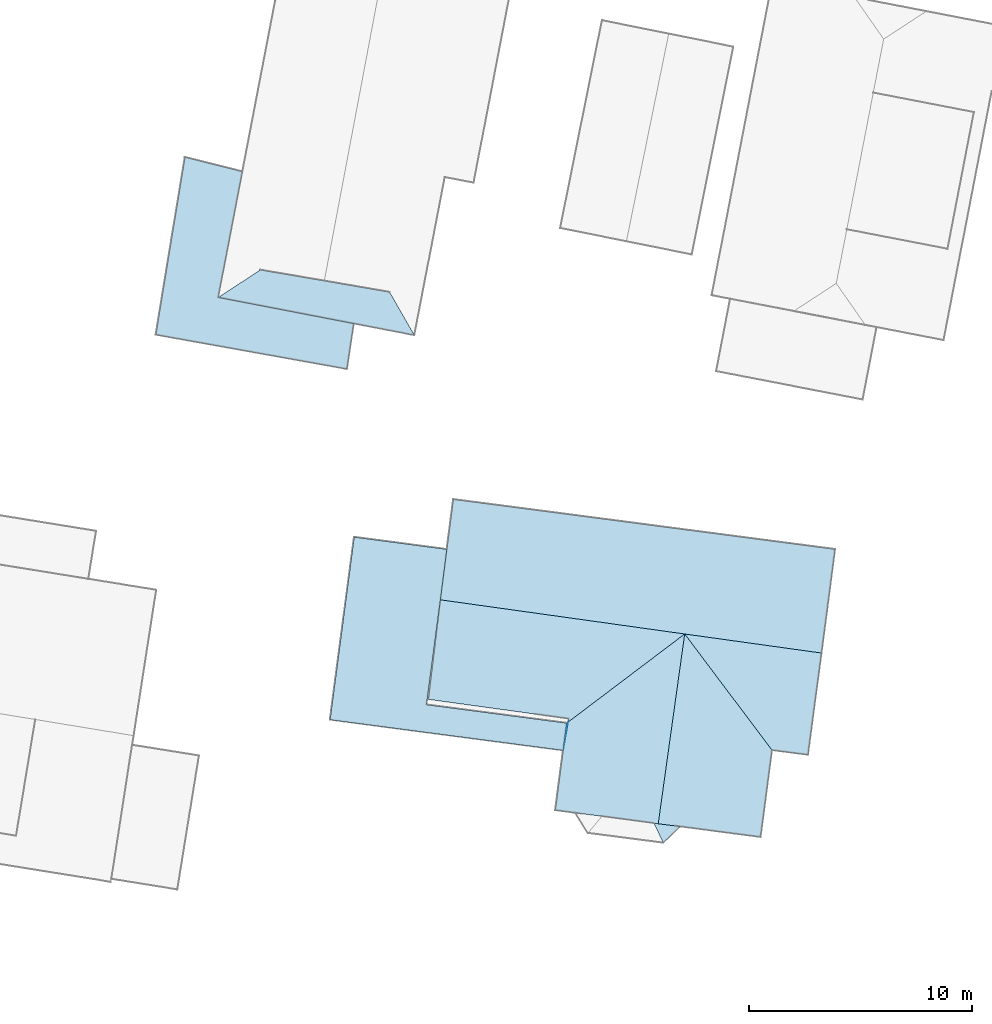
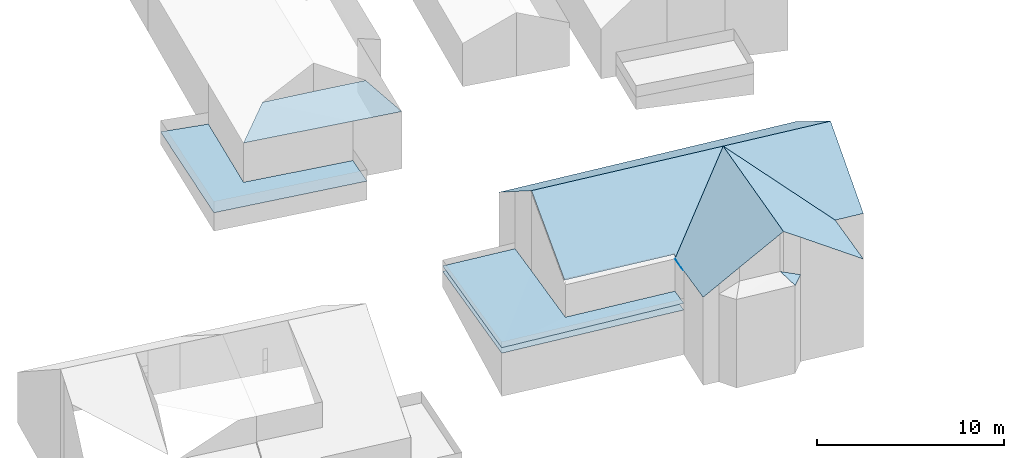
# Not in any storey, part 55 of 57: 22 roofs.
"""IFC4 building model written with IfcOpenShell, lengths in metres."""

from ifc_helpers import new_model, entity, si_unit, converted_unit, frame, origin, place, context, subcontext, project, spatial, face_set, surface_model, element, save


model = new_model("IFC4")

# Units and contexts
model_context = context("Model", 3, precision=1e-05, world=origin())
body_context = subcontext(model_context, "Body", "Model", "MODEL_VIEW")
ifc_project = project(units=[converted_unit("PLANEANGLEUNIT", "DEGREE", entity("IfcRatioMeasure", 0.0174532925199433), si_unit("PLANEANGLEUNIT", "RADIAN"), dimensions=[0, 0, 0, 0, 0, 0, 0]), si_unit("AREAUNIT", "SQUARE_METRE"), si_unit("LENGTHUNIT", "METRE")], contexts=[model_context])

# Site, building
site_placement = place(None, origin())
site = spatial("IfcSite", under=ifc_project, at=site_placement, Name="_site")
building_1_placement = place(site_placement, origin())
building_1 = spatial("IfcBuilding", under=site, at=building_1_placement, Name="_building")

# Roofs
roof_1_placement = place(building_1_placement, origin())
element("IfcRoof", 1, at=roof_1_placement, inside=building_1, Name="Roof", PredefinedType="NOTDEFINED", context=body_context, shape_type="SurfaceModel", body=[
    surface_model("IfcFaceBasedSurfaceModel", [(233.55, 89.753, 110.25), (233.709, 90.98, 110.24), (227.414, 91.808, 110.24), (228.039, 96.515, 110.193), (228.328, 98.781, 110.17), (224.168, 99.329, 110.17), (223.086, 91.129, 110.17)], [face_set([[[0, 1, 2, 3, 4, 5, 6]]])]),
])
roof_2_placement = place(building_1_placement, origin())
element("IfcRoof", 2, at=roof_2_placement, inside=building_1, Name="Roof", PredefinedType="NOTDEFINED", context=body_context, shape_type="SurfaceModel", body=[
    surface_model("IfcFaceBasedSurfaceModel", [(233.709, 90.98, 112.35), (233.768, 91.024, 112.384), (233.55, 89.753, 112.36)], [face_set([[[0, 1, 2]]])]),
])
roof_3_placement = place(building_1_placement, origin())
element("IfcRoof", 3, at=roof_3_placement, inside=building_1, Name="Roof", PredefinedType="NOTDEFINED", context=body_context, shape_type="SurfaceModel", body=[
    surface_model("IfcFaceBasedSurfaceModel", [(233.55, 89.753, 110.25), (233.709, 90.98, 110.24), (227.414, 91.808, 110.24), (228.039, 96.515, 110.193), (228.328, 98.781, 110.17), (224.168, 99.329, 110.17), (223.086, 91.129, 110.17)], [face_set([[[0, 1, 2, 3, 4, 5, 6]]])]),
])
roof_4_placement = place(building_1_placement, origin())
element("IfcRoof", 4, at=roof_4_placement, inside=building_1, Name="Roof", PredefinedType="NOTDEFINED", context=body_context, shape_type="SurfaceModel", body=[
    surface_model("IfcFaceBasedSurfaceModel", [(233.709, 90.98, 112.35), (233.768, 91.024, 112.384), (233.55, 89.753, 112.36)], [face_set([[[0, 1, 2]]])]),
])
for number, where, name in (
    (5, (0.0, 0.0, 0.0), "Roof"),
    (6, (0.0, 0.0, 0.0), "Roof"),
):
    element("IfcRoof", number, at=place(building_1_placement, frame(where)), inside=building_1, Name=name, PredefinedType="NOTDEFINED", context=body_context, shape_type="SurfaceModel", body=[
        surface_model("IfcFaceBasedSurfaceModel", [(233.55, 89.753, 109.81), (233.709, 90.98, 109.81), (227.414, 91.808, 109.81), (228.039, 96.515, 109.81), (228.328, 98.781, 109.81), (224.168, 99.329, 109.81), (223.086, 91.129, 109.81)], [face_set([[[0, 1, 2, 3, 4, 5, 6]]])]),
    ])

# Building
building_2_placement = place(site_placement, origin())
building_2 = spatial("IfcBuilding", under=site, at=building_2_placement, Name="_building")

# Roofs
for number, where, name in (
    (7, (0.0, 0.0, 0.0), "Roof"),
    (8, (0.0, 0.0, 0.0), "Roof"),
):
    element("IfcRoof", number, at=place(building_2_placement, frame(where)), inside=building_2, Name=name, PredefinedType="NOTDEFINED", context=body_context, shape_type="SurfaceModel", body=[
        surface_model("IfcFaceBasedSurfaceModel", [(218.066, 110.088, 113.82), (224.153, 108.915, 113.82), (226.872, 108.391, 113.82), (225.757, 110.328, 115.07), (222.827, 110.835, 115.07), (219.956, 111.325, 115.07)], [face_set([[[0, 1, 2, 3, 4, 5]]])]),
    ])
for number, where, name in (
    (9, (0.0, 0.0, 0.0), "Roof"),
    (10, (0.0, 0.0, 0.0), "Roof"),
):
    element("IfcRoof", number, at=place(building_2_placement, frame(where)), inside=building_2, Name=name, PredefinedType="NOTDEFINED", context=body_context, shape_type="SurfaceModel", body=[
        surface_model("IfcFaceBasedSurfaceModel", [(224.153, 108.915, 111.25), (218.066, 110.088, 111.25), (219.152, 115.735, 111.25), (216.573, 116.387, 111.25), (215.265, 108.413, 111.25), (223.845, 106.871, 111.25)], [face_set([[[0, 1, 2, 3, 4, 5]]])]),
    ])

# Building
building_3_placement = place(site_placement, origin())
building_3 = spatial("IfcBuilding", under=site, at=building_3_placement, Name="_building")

# Roofs
roof_5_placement = place(building_3_placement, origin())
element("IfcRoof", 11, at=roof_5_placement, inside=building_3, Name="Roof", PredefinedType="NOTDEFINED", context=body_context, shape_type="SurfaceModel", body=[
    surface_model("IfcFaceBasedSurfaceModel", [(239.005, 94.981, 115.44), (228.039, 96.515, 115.44), (227.5, 92.046, 112.478), (233.794, 91.179, 112.487), (233.768, 91.024, 112.384)], [face_set([[[0, 1, 2, 3, 4]]])]),
])
roof_6_placement = place(building_3_placement, origin())
element("IfcRoof", 12, at=roof_6_placement, inside=building_3, Name="Roof", PredefinedType="NOTDEFINED", context=body_context, shape_type="SurfaceModel", body=[
    surface_model("IfcFaceBasedSurfaceModel", [(242.926, 89.764, 112.39), (244.542, 89.556, 112.39), (245.15, 94.125, 115.44), (239.005, 94.981, 115.44)], [face_set([[[0, 1, 2, 3]]])]),
])
roof_7_placement = place(building_3_placement, origin())
element("IfcRoof", 13, at=roof_7_placement, inside=building_3, Name="Roof", PredefinedType="NOTDEFINED", context=body_context, shape_type="SurfaceModel", body=[
    surface_model("IfcFaceBasedSurfaceModel", [(239.005, 94.981, 115.44), (237.816, 86.461, 115.44), (238.803, 86.338, 114.79), (242.415, 85.864, 112.39), (242.926, 89.764, 112.39)], [face_set([[[0, 1, 2, 3, 4]]])]),
])
roof_8_placement = place(building_3_placement, origin())
element("IfcRoof", 14, at=roof_8_placement, inside=building_3, Name="Roof", PredefinedType="NOTDEFINED", context=body_context, shape_type="SurfaceModel", body=[
    surface_model("IfcFaceBasedSurfaceModel", [(245.15, 94.125, 115.44), (245.759, 98.783, 112.39), (228.621, 101.025, 112.39), (228.328, 98.781, 113.91), (228.039, 96.515, 115.44), (239.005, 94.981, 115.44)], [face_set([[[0, 1, 2, 3, 4, 5]]])]),
])
roof_9_placement = place(building_3_placement, origin())
element("IfcRoof", 15, at=roof_9_placement, inside=building_3, Name="Roof", PredefinedType="NOTDEFINED", context=body_context, shape_type="SurfaceModel", body=[
    surface_model("IfcFaceBasedSurfaceModel", [(238.046, 85.605, 112.35), (238.803, 86.338, 112.35), (237.816, 86.461, 112.794), (237.626, 86.486, 112.88)], [face_set([[[0, 1, 2, 3]]])]),
])
roof_10_placement = place(building_3_placement, origin())
element("IfcRoof", 16, at=roof_10_placement, inside=building_3, Name="Roof", PredefinedType="NOTDEFINED", context=body_context, shape_type="SurfaceModel", body=[
    surface_model("IfcFaceBasedSurfaceModel", [(239.005, 94.981, 115.44), (237.816, 86.461, 115.44), (238.803, 86.338, 114.79), (242.415, 85.864, 112.39), (242.926, 89.764, 112.39)], [face_set([[[0, 1, 2, 3, 4]]])]),
])
roof_11_placement = place(building_3_placement, origin())
element("IfcRoof", 17, at=roof_11_placement, inside=building_3, Name="Roof", PredefinedType="NOTDEFINED", context=body_context, shape_type="SurfaceModel", body=[
    surface_model("IfcFaceBasedSurfaceModel", [(239.005, 94.981, 115.44), (233.768, 91.024, 112.384), (233.55, 89.753, 112.36), (233.197, 87.07, 112.39), (234.095, 86.949, 112.98), (235.292, 86.801, 113.77), (237.626, 86.486, 115.314), (237.816, 86.461, 115.44)], [face_set([[[0, 1, 2, 3, 4, 5, 6, 7]]])]),
])
roof_12_placement = place(building_3_placement, origin())
element("IfcRoof", 18, at=roof_12_placement, inside=building_3, Name="Roof", PredefinedType="NOTDEFINED", context=body_context, shape_type="SurfaceModel", body=[
    surface_model("IfcFaceBasedSurfaceModel", [(238.046, 85.605, 112.35), (238.803, 86.338, 112.35), (237.816, 86.461, 112.794), (237.626, 86.486, 112.88)], [face_set([[[0, 1, 2, 3]]])]),
])
roof_13_placement = place(building_3_placement, origin())
element("IfcRoof", 19, at=roof_13_placement, inside=building_3, Name="Roof", PredefinedType="NOTDEFINED", context=body_context, shape_type="SurfaceModel", body=[
    surface_model("IfcFaceBasedSurfaceModel", [(245.15, 94.125, 115.44), (245.759, 98.783, 112.39), (228.621, 101.025, 112.39), (228.328, 98.781, 113.91), (228.039, 96.515, 115.44), (239.005, 94.981, 115.44)], [face_set([[[0, 1, 2, 3, 4, 5]]])]),
])
roof_14_placement = place(building_3_placement, origin())
element("IfcRoof", 20, at=roof_14_placement, inside=building_3, Name="Roof", PredefinedType="NOTDEFINED", context=body_context, shape_type="SurfaceModel", body=[
    surface_model("IfcFaceBasedSurfaceModel", [(239.005, 94.981, 115.44), (228.039, 96.515, 115.44), (227.5, 92.046, 112.478), (233.794, 91.179, 112.487), (233.768, 91.024, 112.384)], [face_set([[[0, 1, 2, 3, 4]]])]),
])
roof_15_placement = place(building_3_placement, origin())
element("IfcRoof", 21, at=roof_15_placement, inside=building_3, Name="Roof", PredefinedType="NOTDEFINED", context=body_context, shape_type="SurfaceModel", body=[
    surface_model("IfcFaceBasedSurfaceModel", [(242.926, 89.764, 112.39), (244.542, 89.556, 112.39), (245.15, 94.125, 115.44), (239.005, 94.981, 115.44)], [face_set([[[0, 1, 2, 3]]])]),
])
roof_16_placement = place(building_3_placement, origin())
element("IfcRoof", 22, at=roof_16_placement, inside=building_3, Name="Roof", PredefinedType="NOTDEFINED", context=body_context, shape_type="SurfaceModel", body=[
    surface_model("IfcFaceBasedSurfaceModel", [(239.005, 94.981, 115.44), (233.768, 91.024, 112.384), (233.55, 89.753, 112.36), (233.197, 87.07, 112.39), (234.095, 86.949, 112.98), (235.292, 86.801, 113.77), (237.626, 86.486, 115.314), (237.816, 86.461, 115.44)], [face_set([[[0, 1, 2, 3, 4, 5, 6, 7]]])]),
])

save(model, "model.ifc")
